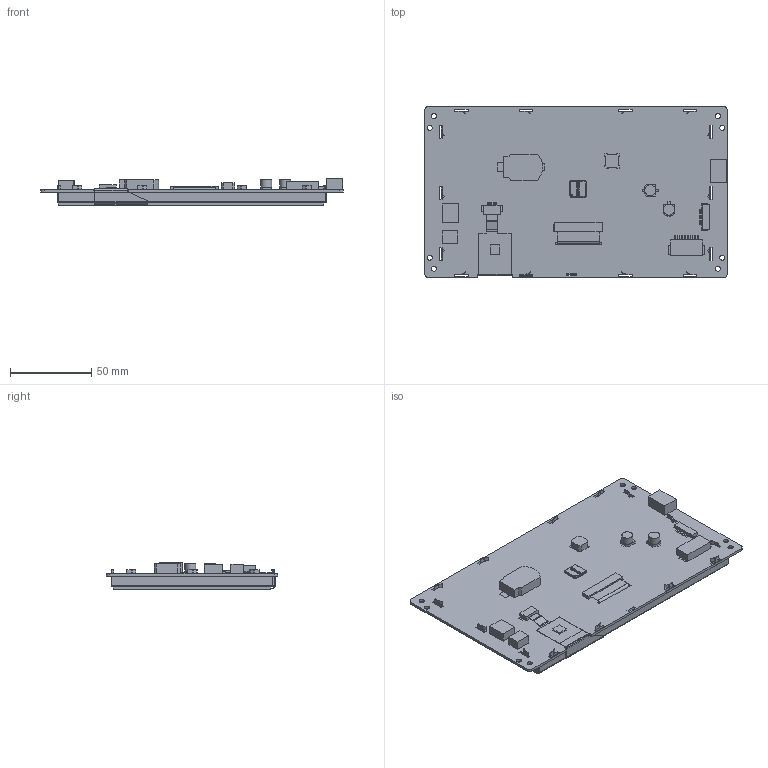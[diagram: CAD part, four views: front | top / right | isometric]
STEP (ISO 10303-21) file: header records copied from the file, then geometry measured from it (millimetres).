
FILE_DESCRIPTION(/* description */ (''),/* implementation_level */ '2;1');
FILE_NAME(/* name */ '',/* time_stamp */ '2023-07-26T18:23:12+08:00',/* author */ (''),/* organization */ (''),/* preprocessor_version */ 'ST-DEVELOPER v11',/* originating_system */ 'SIEMENS PLM Software NX 7.5',/* authorisation */ '');
FILE_SCHEMA (('AP203_CONFIGURATION_CONTROLLED_3D_DESIGN_OF_MECHANICAL_PARTS_AND_ASSEMBLIES_MIM_LF'));
Length unit declared in the file: millimetre
Products named in the file (1): 3D-SDWb070T74C_stp
Bounding box: 186.3 x 105.4 x 17.1 mm (x, y, z)
Volume: 165810.4 mm3; surface area: 127213 mm2
Topology: 22 solids, 22 shells, 1688 faces, 4783 edges, 3155 vertices
Faces by surface type: plane 1476, cylinder 205, bspline 7
Full cylindrical faces by diameter (mm): 3.2 x8, 6.776 x2
Entity records: 56510 total; most frequent: CARTESIAN_POINT 10048, ORIENTED_EDGE 9542, DIRECTION 8458, EDGE_CURVE 4771, LINE 4320, VECTOR 4320, VERTEX_POINT 3153, AXIS2_PLACEMENT_3D 2069
